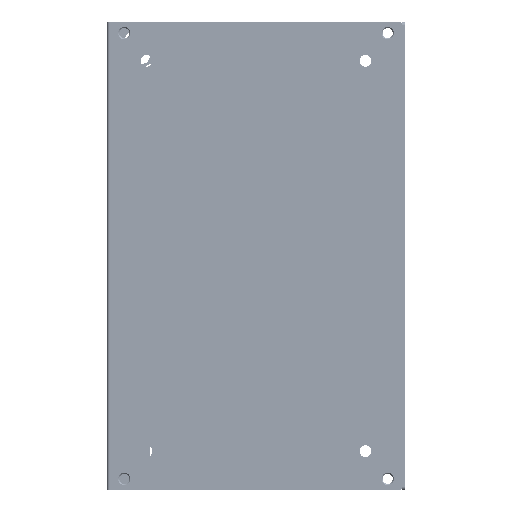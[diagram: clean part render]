
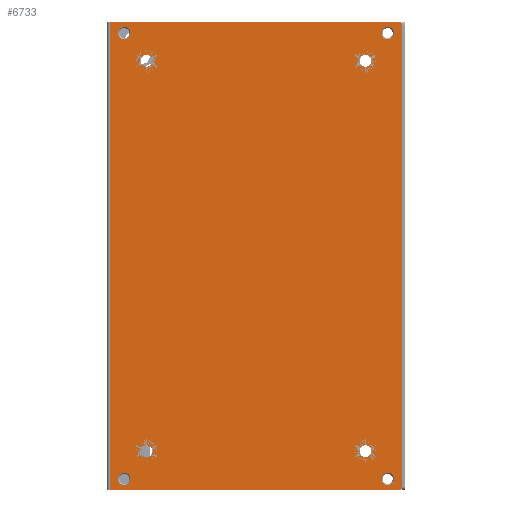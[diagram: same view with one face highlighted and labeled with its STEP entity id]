
A CAD part, front view. The second image highlights one B-rep face of the part: STEP entity #6733.
In plain terms, the highlighted planar face has unit normal (0, -1, 0).
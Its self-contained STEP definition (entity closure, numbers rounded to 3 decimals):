
#2205=DIRECTION('',(0.,0.,1.));
#2206=VECTOR('',#2205,138.6);
#2207=CARTESIAN_POINT('',(0.8,-0.8,-138.6));
#2208=LINE('',#2207,#2206);
#2332=CARTESIAN_POINT('',(86.4,-0.8,-1.));
#2333=DIRECTION('',(0.,-1.,0.));
#2334=DIRECTION('',(1.,0.,0.));
#2335=AXIS2_PLACEMENT_3D('',#2332,#2333,#2334);
#2337=DIRECTION('',(0.,0.,-1.));
#2338=VECTOR('',#2337,136.6);
#2339=CARTESIAN_POINT('',(87.4,-0.8,-1.));
#2340=LINE('',#2339,#2338);
#2341=CARTESIAN_POINT('',(86.4,-0.8,-137.6));
#2342=DIRECTION('',(0.,-1.,0.));
#2343=DIRECTION('',(0.,0.,-1.));
#2344=AXIS2_PLACEMENT_3D('',#2341,#2342,#2343);
#2346=DIRECTION('',(-1.,0.,0.));
#2347=VECTOR('',#2346,85.6);
#2348=CARTESIAN_POINT('',(86.4,-0.8,-138.6));
#2349=LINE('',#2348,#2347);
#2350=DIRECTION('',(1.,0.,0.));
#2351=VECTOR('',#2350,85.6);
#2352=CARTESIAN_POINT('',(0.8,-0.8,0.));
#2353=LINE('',#2352,#2351);
#2354=CARTESIAN_POINT('',(5.1,-0.8,-3.3));
#2355=DIRECTION('',(0.,1.,0.));
#2356=DIRECTION('',(0.,0.,1.));
#2357=AXIS2_PLACEMENT_3D('',#2354,#2355,#2356);
#2359=CARTESIAN_POINT('',(5.1,-0.8,-3.3));
#2360=DIRECTION('',(0.,1.,0.));
#2361=DIRECTION('',(0.,0.,-1.));
#2362=AXIS2_PLACEMENT_3D('',#2359,#2360,#2361);
#2364=CARTESIAN_POINT('',(83.1,-0.8,-3.3));
#2365=DIRECTION('',(0.,1.,0.));
#2366=DIRECTION('',(0.,0.,1.));
#2367=AXIS2_PLACEMENT_3D('',#2364,#2365,#2366);
#2369=CARTESIAN_POINT('',(83.1,-0.8,-3.3));
#2370=DIRECTION('',(0.,1.,0.));
#2371=DIRECTION('',(0.,0.,-1.));
#2372=AXIS2_PLACEMENT_3D('',#2369,#2370,#2371);
#2374=CARTESIAN_POINT('',(83.1,-0.8,-135.3));
#2375=DIRECTION('',(0.,1.,0.));
#2376=DIRECTION('',(0.,0.,1.));
#2377=AXIS2_PLACEMENT_3D('',#2374,#2375,#2376);
#2379=CARTESIAN_POINT('',(83.1,-0.8,-135.3));
#2380=DIRECTION('',(0.,1.,0.));
#2381=DIRECTION('',(0.,0.,-1.));
#2382=AXIS2_PLACEMENT_3D('',#2379,#2380,#2381);
#2384=CARTESIAN_POINT('',(5.1,-0.8,-135.3));
#2385=DIRECTION('',(0.,1.,0.));
#2386=DIRECTION('',(0.,0.,1.));
#2387=AXIS2_PLACEMENT_3D('',#2384,#2385,#2386);
#2389=CARTESIAN_POINT('',(5.1,-0.8,-135.3));
#2390=DIRECTION('',(0.,1.,0.));
#2391=DIRECTION('',(0.,0.,-1.));
#2392=AXIS2_PLACEMENT_3D('',#2389,#2390,#2391);
#2394=CARTESIAN_POINT('',(76.5,-0.8,-11.5));
#2395=DIRECTION('',(0.,-1.,0.));
#2396=DIRECTION('',(1.,0.,0.));
#2397=AXIS2_PLACEMENT_3D('',#2394,#2395,#2396);
#2399=CARTESIAN_POINT('',(76.5,-0.8,-11.5));
#2400=DIRECTION('',(0.,-1.,0.));
#2401=DIRECTION('',(-1.,0.,0.));
#2402=AXIS2_PLACEMENT_3D('',#2399,#2400,#2401);
#2404=CARTESIAN_POINT('',(11.7,-0.8,-11.5));
#2405=DIRECTION('',(0.,-1.,0.));
#2406=DIRECTION('',(1.,0.,0.));
#2407=AXIS2_PLACEMENT_3D('',#2404,#2405,#2406);
#2409=CARTESIAN_POINT('',(11.7,-0.8,-11.5));
#2410=DIRECTION('',(0.,-1.,0.));
#2411=DIRECTION('',(-1.,0.,0.));
#2412=AXIS2_PLACEMENT_3D('',#2409,#2410,#2411);
#2414=CARTESIAN_POINT('',(76.5,-0.8,-127.1));
#2415=DIRECTION('',(0.,-1.,0.));
#2416=DIRECTION('',(1.,0.,0.));
#2417=AXIS2_PLACEMENT_3D('',#2414,#2415,#2416);
#2419=CARTESIAN_POINT('',(76.5,-0.8,-127.1));
#2420=DIRECTION('',(0.,-1.,0.));
#2421=DIRECTION('',(-1.,0.,0.));
#2422=AXIS2_PLACEMENT_3D('',#2419,#2420,#2421);
#2424=CARTESIAN_POINT('',(11.7,-0.8,-127.1));
#2425=DIRECTION('',(0.,-1.,0.));
#2426=DIRECTION('',(1.,0.,0.));
#2427=AXIS2_PLACEMENT_3D('',#2424,#2425,#2426);
#2429=CARTESIAN_POINT('',(11.7,-0.8,-127.1));
#2430=DIRECTION('',(0.,-1.,0.));
#2431=DIRECTION('',(-1.,0.,0.));
#2432=AXIS2_PLACEMENT_3D('',#2429,#2430,#2431);
#3972=CARTESIAN_POINT('',(0.8,-0.8,0.));
#3973=VERTEX_POINT('',#3972);
#3974=CARTESIAN_POINT('',(0.8,-0.8,-138.6));
#3975=VERTEX_POINT('',#3974);
#4152=CARTESIAN_POINT('',(87.4,-0.8,-1.));
#4153=VERTEX_POINT('',#4152);
#4154=CARTESIAN_POINT('',(86.4,-0.8,0.));
#4155=VERTEX_POINT('',#4154);
#4160=CARTESIAN_POINT('',(86.4,-0.8,-138.6));
#4161=VERTEX_POINT('',#4160);
#4162=CARTESIAN_POINT('',(87.4,-0.8,-137.6));
#4163=VERTEX_POINT('',#4162);
#4876=CARTESIAN_POINT('',(5.1,-0.8,-1.5));
#4877=CARTESIAN_POINT('',(5.1,-0.8,-5.1));
#4878=VERTEX_POINT('',#4876);
#4879=VERTEX_POINT('',#4877);
#4884=CARTESIAN_POINT('',(83.1,-0.8,-1.5));
#4885=CARTESIAN_POINT('',(83.1,-0.8,-5.1));
#4886=VERTEX_POINT('',#4884);
#4887=VERTEX_POINT('',#4885);
#4892=CARTESIAN_POINT('',(83.1,-0.8,-133.5));
#4893=CARTESIAN_POINT('',(83.1,-0.8,-137.1));
#4894=VERTEX_POINT('',#4892);
#4895=VERTEX_POINT('',#4893);
#4900=CARTESIAN_POINT('',(5.1,-0.8,-133.5));
#4901=CARTESIAN_POINT('',(5.1,-0.8,-137.1));
#4902=VERTEX_POINT('',#4900);
#4903=VERTEX_POINT('',#4901);
#5080=CARTESIAN_POINT('',(78.25,-0.8,-11.5));
#5081=CARTESIAN_POINT('',(74.75,-0.8,-11.5));
#5082=VERTEX_POINT('',#5080);
#5083=VERTEX_POINT('',#5081);
#5088=CARTESIAN_POINT('',(13.45,-0.8,-11.5));
#5089=CARTESIAN_POINT('',(9.95,-0.8,-11.5));
#5090=VERTEX_POINT('',#5088);
#5091=VERTEX_POINT('',#5089);
#5096=CARTESIAN_POINT('',(78.25,-0.8,-127.1));
#5097=CARTESIAN_POINT('',(74.75,-0.8,-127.1));
#5098=VERTEX_POINT('',#5096);
#5099=VERTEX_POINT('',#5097);
#5104=CARTESIAN_POINT('',(13.45,-0.8,-127.1));
#5105=CARTESIAN_POINT('',(9.95,-0.8,-127.1));
#5106=VERTEX_POINT('',#5104);
#5107=VERTEX_POINT('',#5105);
#6671=CARTESIAN_POINT('',(0.,-0.8,0.));
#6672=DIRECTION('',(0.,1.,0.));
#6673=DIRECTION('',(1.,0.,0.));
#6674=AXIS2_PLACEMENT_3D('',#6671,#6672,#6673);
#6675=PLANE('',#6674);
#6676=ORIENTED_EDGE('',*,*,#6572,.F.);
#6678=ORIENTED_EDGE('',*,*,#6677,.T.);
#6679=ORIENTED_EDGE('',*,*,#6664,.F.);
#6680=ORIENTED_EDGE('',*,*,#6652,.T.);
#6681=ORIENTED_EDGE('',*,*,#6529,.T.);
#6682=ORIENTED_EDGE('',*,*,#6555,.T.);
#6683=EDGE_LOOP('',(#6676,#6678,#6679,#6680,#6681,#6682));
#6684=FACE_OUTER_BOUND('',#6683,.F.);
#6686=ORIENTED_EDGE('',*,*,#6685,.F.);
#6688=ORIENTED_EDGE('',*,*,#6687,.F.);
#6689=EDGE_LOOP('',(#6686,#6688));
#6690=FACE_BOUND('',#6689,.F.);
#6692=ORIENTED_EDGE('',*,*,#6691,.F.);
#6694=ORIENTED_EDGE('',*,*,#6693,.F.);
#6695=EDGE_LOOP('',(#6692,#6694));
#6696=FACE_BOUND('',#6695,.F.);
#6698=ORIENTED_EDGE('',*,*,#6697,.F.);
#6700=ORIENTED_EDGE('',*,*,#6699,.F.);
#6701=EDGE_LOOP('',(#6698,#6700));
#6702=FACE_BOUND('',#6701,.F.);
#6704=ORIENTED_EDGE('',*,*,#6703,.F.);
#6706=ORIENTED_EDGE('',*,*,#6705,.F.);
#6707=EDGE_LOOP('',(#6704,#6706));
#6708=FACE_BOUND('',#6707,.F.);
#6710=ORIENTED_EDGE('',*,*,#6709,.T.);
#6712=ORIENTED_EDGE('',*,*,#6711,.T.);
#6713=EDGE_LOOP('',(#6710,#6712));
#6714=FACE_BOUND('',#6713,.F.);
#6716=ORIENTED_EDGE('',*,*,#6715,.T.);
#6718=ORIENTED_EDGE('',*,*,#6717,.T.);
#6719=EDGE_LOOP('',(#6716,#6718));
#6720=FACE_BOUND('',#6719,.F.);
#6722=ORIENTED_EDGE('',*,*,#6721,.T.);
#6724=ORIENTED_EDGE('',*,*,#6723,.T.);
#6725=EDGE_LOOP('',(#6722,#6724));
#6726=FACE_BOUND('',#6725,.F.);
#6728=ORIENTED_EDGE('',*,*,#6727,.T.);
#6730=ORIENTED_EDGE('',*,*,#6729,.T.);
#6731=EDGE_LOOP('',(#6728,#6730));
#6732=FACE_BOUND('',#6731,.F.);
#6733=ADVANCED_FACE('',(#6684,#6690,#6696,#6702,#6708,#6714,#6720,#6726,#6732),
#6675,.F.);
#2336=CIRCLE('',#2335,1.);
#2345=CIRCLE('',#2344,1.);
#2358=CIRCLE('',#2357,1.8);
#2363=CIRCLE('',#2362,1.8);
#2368=CIRCLE('',#2367,1.8);
#2373=CIRCLE('',#2372,1.8);
#2378=CIRCLE('',#2377,1.8);
#2383=CIRCLE('',#2382,1.8);
#2388=CIRCLE('',#2387,1.8);
#2393=CIRCLE('',#2392,1.8);
#2398=CIRCLE('',#2397,1.75);
#2403=CIRCLE('',#2402,1.75);
#2408=CIRCLE('',#2407,1.75);
#2413=CIRCLE('',#2412,1.75);
#2418=CIRCLE('',#2417,1.75);
#2423=CIRCLE('',#2422,1.75);
#2428=CIRCLE('',#2427,1.75);
#2433=CIRCLE('',#2432,1.75);
#6529=EDGE_CURVE('',#3975,#3973,#2208,.T.);
#6555=EDGE_CURVE('',#3973,#4155,#2353,.T.);
#6572=EDGE_CURVE('',#4153,#4155,#2336,.T.);
#6652=EDGE_CURVE('',#4161,#3975,#2349,.T.);
#6664=EDGE_CURVE('',#4161,#4163,#2345,.T.);
#6677=EDGE_CURVE('',#4153,#4163,#2340,.T.);
#6685=EDGE_CURVE('',#4878,#4879,#2358,.T.);
#6687=EDGE_CURVE('',#4879,#4878,#2363,.T.);
#6691=EDGE_CURVE('',#4886,#4887,#2368,.T.);
#6693=EDGE_CURVE('',#4887,#4886,#2373,.T.);
#6697=EDGE_CURVE('',#4894,#4895,#2378,.T.);
#6699=EDGE_CURVE('',#4895,#4894,#2383,.T.);
#6703=EDGE_CURVE('',#4902,#4903,#2388,.T.);
#6705=EDGE_CURVE('',#4903,#4902,#2393,.T.);
#6709=EDGE_CURVE('',#5082,#5083,#2398,.T.);
#6711=EDGE_CURVE('',#5083,#5082,#2403,.T.);
#6715=EDGE_CURVE('',#5090,#5091,#2408,.T.);
#6717=EDGE_CURVE('',#5091,#5090,#2413,.T.);
#6721=EDGE_CURVE('',#5098,#5099,#2418,.T.);
#6723=EDGE_CURVE('',#5099,#5098,#2423,.T.);
#6727=EDGE_CURVE('',#5106,#5107,#2428,.T.);
#6729=EDGE_CURVE('',#5107,#5106,#2433,.T.);
